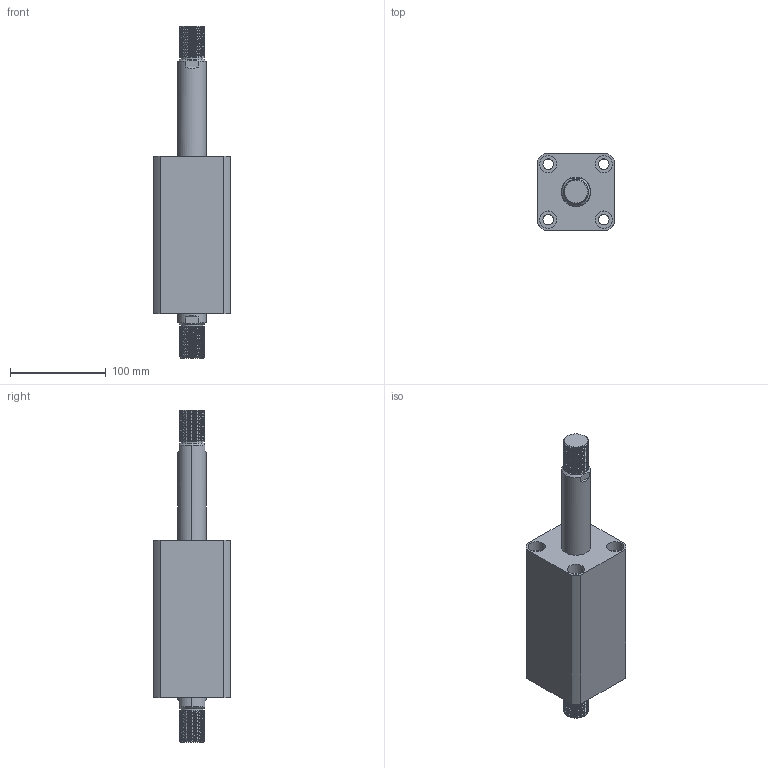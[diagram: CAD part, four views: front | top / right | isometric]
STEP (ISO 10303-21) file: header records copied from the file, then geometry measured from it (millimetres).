
FILE_DESCRIPTION (( 'STEP AP203' ), '1' );
FILE_NAME ('CHTB-SW50-90W.STEP', '2018-05-21T07:39:31', ( '' ), ( '' ), 'SwSTEP 2.0', 'SolidWorks 2015', '' );
FILE_SCHEMA (( 'CONFIG_CONTROL_DESIGN' ));
Length unit declared in the file: millimetre
Products named in the file (4): 掛极SW50-90W; CHTB-SW50-90W; ヶ裔; 活塞杆SW50-90W
Assembly tree (3 placements, depth 2):
  CHTB-SW50-90W
    掛极SW50-90W
    活塞杆SW50-90W
    ヶ裔
Bounding box: 80 x 80 x 347 mm (x, y, z)
Volume: 956373.2 mm3; surface area: 169095.7 mm2
Topology: 3 solids, 3 shells, 314 faces, 794 edges, 514 vertices
Faces by surface type: cylinder 202, plane 51, cone 29, torus 24, bspline 8
Entity records: 17377 total; most frequent: CARTESIAN_POINT 10049, ORIENTED_EDGE 1580, DIRECTION 1358, EDGE_CURVE 790, AXIS2_PLACEMENT_3D 549, VERTEX_POINT 514, EDGE_LOOP 362, FACE_OUTER_BOUND 314
